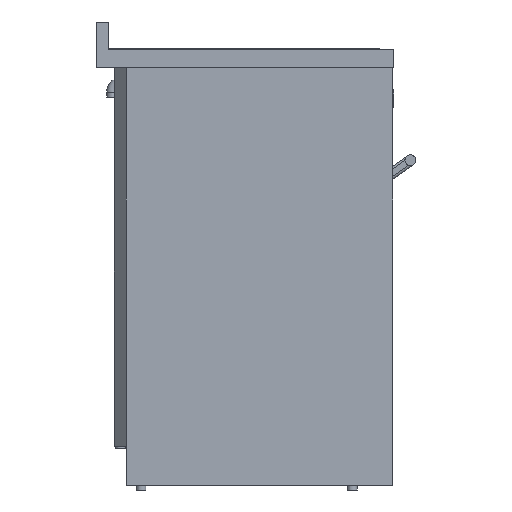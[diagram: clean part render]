
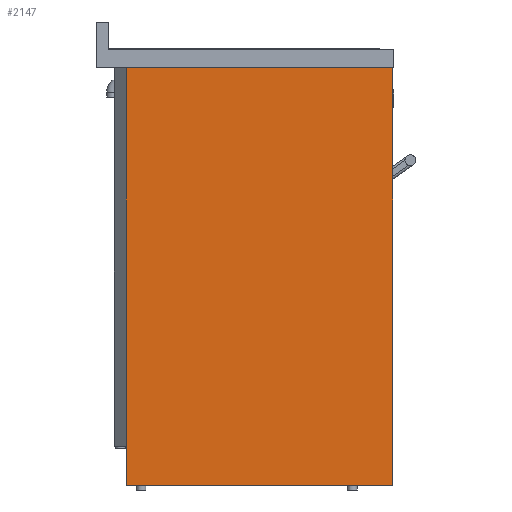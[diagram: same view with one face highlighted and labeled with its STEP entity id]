
A CAD part, left-side view. The second image highlights one B-rep face of the part: STEP entity #2147.
In plain terms, the highlighted planar face has unit normal (-1, 0, 0).
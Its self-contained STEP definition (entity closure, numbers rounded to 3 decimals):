
#2147=ADVANCED_FACE('',(#3364),#2780,.F.);
#2780=PLANE('',#14138);
#3364=FACE_OUTER_BOUND('',#4172,.T.);
#4172=EDGE_LOOP('',(#7150,#7151,#7152,#7153));
#7150=ORIENTED_EDGE('',*,*,#10424,.F.);
#7151=ORIENTED_EDGE('',*,*,#10422,.F.);
#7152=ORIENTED_EDGE('',*,*,#10412,.F.);
#7153=ORIENTED_EDGE('',*,*,#10438,.F.);
#8805=VERTEX_POINT('',#21199);
#8806=VERTEX_POINT('',#21201);
#8814=VERTEX_POINT('',#21219);
#8815=VERTEX_POINT('',#21225);
#10412=EDGE_CURVE('',#8805,#8806,#11832,.T.);
#10422=EDGE_CURVE('',#8806,#8814,#11840,.T.);
#10424=EDGE_CURVE('',#8814,#8815,#11842,.T.);
#10438=EDGE_CURVE('',#8815,#8805,#11853,.T.);
#11832=LINE('',#21200,#13119);
#11840=LINE('',#21221,#13127);
#11842=LINE('',#21224,#13129);
#11853=LINE('',#21251,#13140);
#13119=VECTOR('',#17084,1.);
#13127=VECTOR('',#17100,1.);
#13129=VECTOR('',#17104,1.);
#13140=VECTOR('',#17125,1.);
#14138=AXIS2_PLACEMENT_3D('',#21252,#17126,#17127);
#17084=DIRECTION('',(0.,0.,-1.));
#17100=DIRECTION('',(0.,1.,0.));
#17104=DIRECTION('',(0.,0.,1.));
#17125=DIRECTION('',(0.,-1.,0.));
#17126=DIRECTION('',(1.,0.,0.));
#17127=DIRECTION('',(0.,1.,0.));
#21199=CARTESIAN_POINT('',(-166.746,129.263,430.036));
#21200=CARTESIAN_POINT('',(-166.746,129.263,430.036));
#21201=CARTESIAN_POINT('',(-166.746,129.263,-419.964));
#21219=CARTESIAN_POINT('',(-166.746,671.763,-419.964));
#21221=CARTESIAN_POINT('',(-166.746,129.263,-419.964));
#21224=CARTESIAN_POINT('',(-166.746,671.763,-419.964));
#21225=CARTESIAN_POINT('',(-166.746,671.763,430.036));
#21251=CARTESIAN_POINT('',(-166.746,696.263,430.036));
#21252=CARTESIAN_POINT('',(-166.746,129.263,-419.964));
